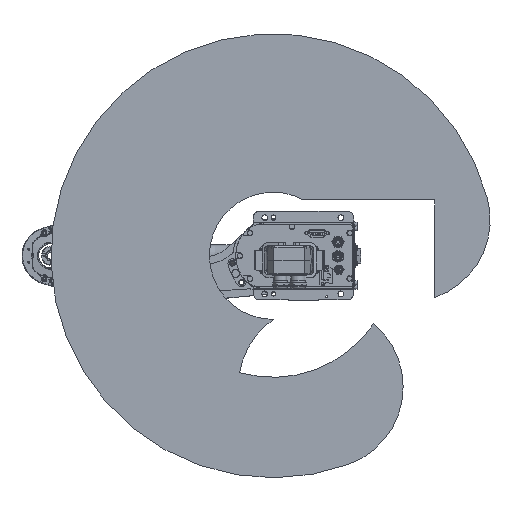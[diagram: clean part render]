
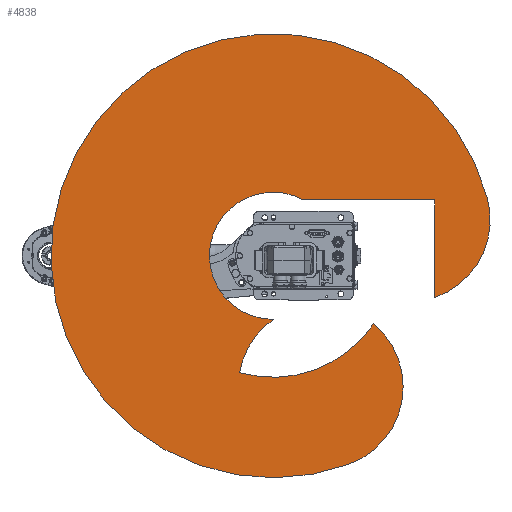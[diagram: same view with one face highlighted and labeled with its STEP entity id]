
A CAD part, front view. The second image highlights one B-rep face of the part: STEP entity #4838.
In plain terms, the highlighted planar face has unit normal (0, -1, 0).
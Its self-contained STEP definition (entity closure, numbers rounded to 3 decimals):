
#4838 = ADVANCED_FACE( '', ( #13253 ), #13254, .F. );
#13253 = FACE_OUTER_BOUND( '', #26693, .T. );
#13254 = PLANE( '', #26694 );
#26693 = EDGE_LOOP( '', ( #43178, #43179, #43180, #43181, #43182, #43183, #43184, #43185 ) );
#26694 = AXIS2_PLACEMENT_3D( '', #43186, #43187, #43188 );
#43178 = ORIENTED_EDGE( '', *, *, #75087, .T. );
#43179 = ORIENTED_EDGE( '', *, *, #75088, .F. );
#43180 = ORIENTED_EDGE( '', *, *, #75089, .F. );
#43181 = ORIENTED_EDGE( '', *, *, #75090, .F. );
#43182 = ORIENTED_EDGE( '', *, *, #75091, .T. );
#43183 = ORIENTED_EDGE( '', *, *, #75092, .T. );
#43184 = ORIENTED_EDGE( '', *, *, #75093, .T. );
#43185 = ORIENTED_EDGE( '', *, *, #75094, .T. );
#43186 = CARTESIAN_POINT( '', ( 103.366, 0., 37.622 ) );
#43187 = DIRECTION( '', ( 0., 1., 0. ) );
#43188 = DIRECTION( '', ( 0., 0., 1. ) );
#75087 = EDGE_CURVE( '', #89351, #89352, #89353, .T. );
#75088 = EDGE_CURVE( '', #89354, #89352, #89355, .T. );
#75089 = EDGE_CURVE( '', #89356, #89354, #89357, .T. );
#75090 = EDGE_CURVE( '', #89358, #89356, #89359, .T. );
#75091 = EDGE_CURVE( '', #89358, #89360, #89361, .T. );
#75092 = EDGE_CURVE( '', #89360, #89362, #89363, .T. );
#75093 = EDGE_CURVE( '', #89362, #89364, #89365, .T. );
#75094 = EDGE_CURVE( '', #89364, #89351, #89366, .T. );
#89351 = VERTEX_POINT( '', #110305 );
#89352 = VERTEX_POINT( '', #110306 );
#89353 = LINE( '', #110307, #110308 );
#89354 = VERTEX_POINT( '', #110309 );
#89355 = CIRCLE( '', #110310, 130. );
#89356 = VERTEX_POINT( '', #110311 );
#89357 = CIRCLE( '', #110312, 350. );
#89358 = VERTEX_POINT( '', #110313 );
#89359 = CIRCLE( '', #110314, 130. );
#89360 = VERTEX_POINT( '', #110315 );
#89361 = CIRCLE( '', #110316, 191.57 );
#89362 = VERTEX_POINT( '', #110317 );
#89363 = CIRCLE( '', #110318, 130. );
#89364 = VERTEX_POINT( '', #110319 );
#89365 = CIRCLE( '', #110320, 100.24 );
#89366 = LINE( '', #110321, #110322 );
#110305 = CARTESIAN_POINT( '', ( -88., 0., 255. ) );
#110306 = CARTESIAN_POINT( '', ( 65.918, 0., 255. ) );
#110307 = CARTESIAN_POINT( '', ( -88., 0., 255. ) );
#110308 = VECTOR( '', #138411, 1000. );
#110309 = CARTESIAN_POINT( '', ( -90.587, 0., 338.074 ) );
#110310 = AXIS2_PLACEMENT_3D( '', #138412, #138413, #138414 );
#110311 = CARTESIAN_POINT( '', ( 328.892, 0., 119.707 ) );
#110312 = AXIS2_PLACEMENT_3D( '', #138415, #138416, #138417 );
#110313 = CARTESIAN_POINT( '', ( 107.145, 0., 158.805 ) );
#110314 = AXIS2_PLACEMENT_3D( '', #138418, #138419, #138420 );
#110315 = CARTESIAN_POINT( '', ( 184.156, 0., -52.78 ) );
#110316 = AXIS2_PLACEMENT_3D( '', #138421, #138422, #138423 );
#110317 = CARTESIAN_POINT( '', ( 100.238, 0., 0.687 ) );
#110318 = AXIS2_PLACEMENT_3D( '', #138424, #138425, #138426 );
#110319 = CARTESIAN_POINT( '', ( -88., 0., 48.001 ) );
#110320 = AXIS2_PLACEMENT_3D( '', #138427, #138428, #138429 );
#110321 = CARTESIAN_POINT( '', ( -88., 0., 48.001 ) );
#110322 = VECTOR( '', #138430, 1000. );
#138411 = DIRECTION( '', ( 1., 0., 0. ) );
#138412 = CARTESIAN_POINT( '', ( -56.94, 0., 212.504 ) );
#138413 = DIRECTION( '', ( 0., 1., 0. ) );
#138414 = DIRECTION( '', ( 1., 0., 0. ) );
#138415 = CARTESIAN_POINT( '', ( 0., 0., 0. ) );
#138416 = DIRECTION( '', ( 0., 1., 0. ) );
#138417 = DIRECTION( '', ( 1., 0., 0. ) );
#138418 = CARTESIAN_POINT( '', ( 206.732, 0., 75.244 ) );
#138419 = DIRECTION( '', ( 0., 1., 0. ) );
#138420 = DIRECTION( '', ( 1., 0., 0. ) );
#138421 = CARTESIAN_POINT( '', ( 0., 0., 0. ) );
#138422 = DIRECTION( '', ( 0., 1., 0. ) );
#138423 = DIRECTION( '', ( 1., 0., 0. ) );
#138424 = CARTESIAN_POINT( '', ( 206.732, 0., 75.244 ) );
#138425 = DIRECTION( '', ( 0., 1., 0. ) );
#138426 = DIRECTION( '', ( 1., 0., 0. ) );
#138427 = CARTESIAN_POINT( '', ( 0., 0., 0. ) );
#138428 = DIRECTION( '', ( 0., 1., 0. ) );
#138429 = DIRECTION( '', ( 1., 0., 0. ) );
#138430 = DIRECTION( '', ( 0., 0., 1. ) );
